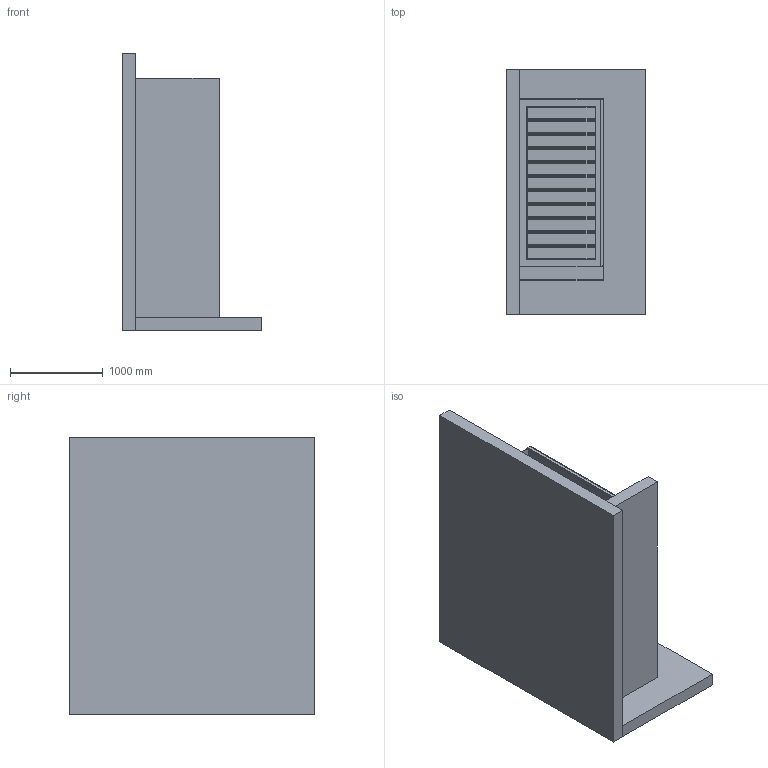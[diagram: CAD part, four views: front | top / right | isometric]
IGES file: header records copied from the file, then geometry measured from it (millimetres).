
Global section: file name: \\Archi-NAS\Comune\X GIOVANNI\SCHEDE PRODOTTO\BOX DOCCIA\DISEGNI 3D\BX 200\MOMA DESIGN_BOX DOCCIA_BX202.igs; native system: Rhinoceros ( Jan 17 2018 ); preprocessor: Trout Lake IGES 012 Jan 17 2018; date: 230623.065858; units: millimetre
Bounding box: 1502.28 x 2641.25 x 2983.36 mm (x, y, z)
Surface area: 48509750.6 mm2 (no closed solid volume)
Topology: 0 solids, 0 shells, 408 faces, 1736 edges, 1636 vertices
Faces by surface type: bspline 408
